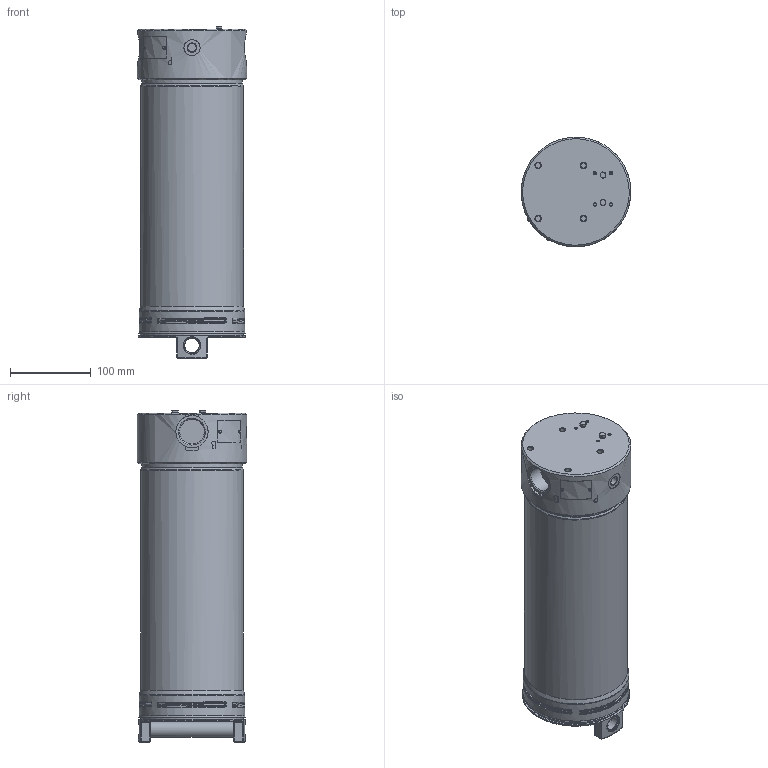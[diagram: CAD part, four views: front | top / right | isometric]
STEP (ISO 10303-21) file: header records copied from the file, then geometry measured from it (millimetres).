
FILE_DESCRIPTION((''),'2;1');
FILE_NAME('U:\Users\r.stiegele\FNS060-163(14531700).stp', '2014-02-24T08:37:39',('User'),('SDRC'),'I-DEAS Master Series 9','UNIX', 'Yes');
FILE_SCHEMA(('AUTOMOTIVE_DESIGN { 1 0 10303 214 1 1 1 1 }'));
Length unit declared in the file: millimetre
Products named in the file (1): 14531700(321056)
Bounding box: 136.19 x 136.19 x 412.4 mm (x, y, z)
Volume: 4805166.2 mm3; surface area: 227195 mm2
Topology: 1 solids, 6 shells, 501 faces, 1211 edges, 753 vertices
Faces by surface type: bspline 501
Entity records: 21688 total; most frequent: CARTESIAN_POINT 14672, ORIENTED_EDGE 2422, EDGE_CURVE 1211, VERTEX_POINT 753, B_SPLINE_CURVE_WITH_KNOTS 627, EDGE_LOOP 554, FACE_OUTER_BOUND 501, ADVANCED_FACE 501
